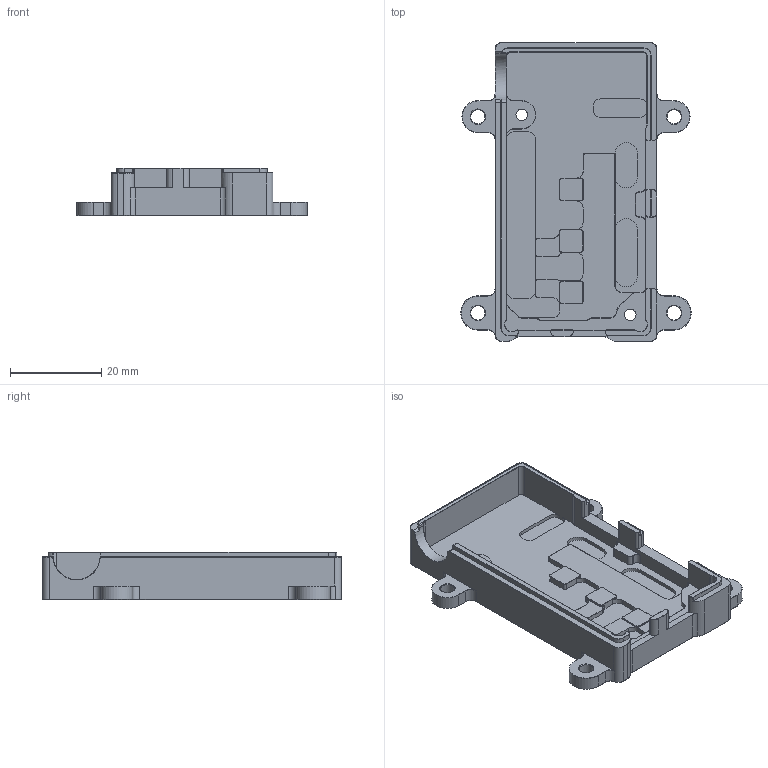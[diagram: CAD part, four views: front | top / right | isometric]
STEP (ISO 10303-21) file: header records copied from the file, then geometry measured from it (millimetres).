
FILE_DESCRIPTION(/* description */ (''),/* implementation_level */ '2;1');
FILE_NAME(/* name */ 'Case.step',/* time_stamp */ '2023-11-15T12:53:29+03:00',/* author */ (''),/* organization */ (''),/* preprocessor_version */ 'ST-DEVELOPER v20',/* originating_system */ 'Autodesk Translation Framework v12.14.0.127',/* authorisation */ '');
FILE_SCHEMA (('AUTOMOTIVE_DESIGN { 1 0 10303 214 3 1 1 }'));
Length unit declared in the file: millimetre
Products named in the file (1): Корпус универсал 
для CAN DRV_1.1.x
Bounding box: 50.5 x 65.5 x 10.4 mm (x, y, z)
Volume: 10041.4 mm3; surface area: 8537.3 mm2
Topology: 1 solids, 1 shells, 451 faces, 1147 edges, 698 vertices
Faces by surface type: plane 197, cylinder 125, cone 122, bspline 7
Full cylindrical faces by diameter (mm): 2.5 x2, 3.1 x4
Entity records: 13644 total; most frequent: CARTESIAN_POINT 2593, DIRECTION 2373, ORIENTED_EDGE 2294, EDGE_CURVE 1147, AXIS2_PLACEMENT_3D 826, LINE 721, VECTOR 721, VERTEX_POINT 698
